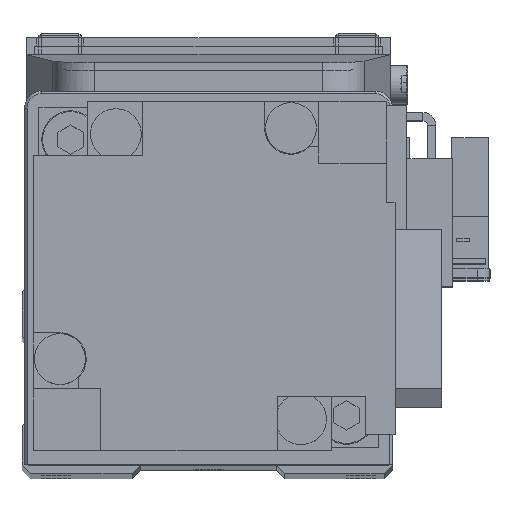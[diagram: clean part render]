
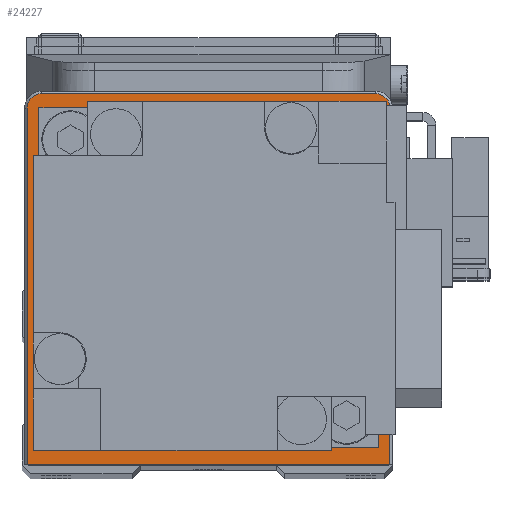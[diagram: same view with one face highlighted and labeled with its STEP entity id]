
A CAD part, top view. The second image highlights one B-rep face of the part: STEP entity #24227.
In plain terms, the highlighted planar face has unit normal (0, 0, 1).
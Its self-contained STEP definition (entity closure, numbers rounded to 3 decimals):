
#461 = EDGE_CURVE ( 'NONE', #6564, #33049, #31217, .T. ) ;
#1410 = CARTESIAN_POINT ( 'NONE',  ( -19.7, 20., 26.5 ) ) ;
#1513 = ORIENTED_EDGE ( 'NONE', *, *, #1767, .T. ) ;
#1539 = LINE ( 'NONE', #6013, #1858 ) ;
#1767 = EDGE_CURVE ( 'NONE', #3363, #33483, #31035, .T. ) ;
#1858 = VECTOR ( 'NONE', #25389, 1000. ) ;
#2168 = AXIS2_PLACEMENT_3D ( 'NONE', #28081, #32885, #4561 ) ;
#2358 = EDGE_CURVE ( 'NONE', #29791, #3363, #1539, .T. ) ;
#2530 = CARTESIAN_POINT ( 'NONE',  ( 19.7, 20., 26.5 ) ) ;
#3363 = VERTEX_POINT ( 'NONE', #7577 ) ;
#3848 = EDGE_LOOP ( 'NONE', ( #1513, #3855, #29890, #17131, #30868, #17779 ) ) ;
#3855 = ORIENTED_EDGE ( 'NONE', *, *, #9524, .T. ) ;
#4561 = DIRECTION ( 'NONE',  ( 1., 0., 0. ) ) ;
#4790 = CARTESIAN_POINT ( 'NONE',  ( 21.4, -22., 26.5 ) ) ;
#6010 = EDGE_CURVE ( 'NONE', #16772, #17665, #20175, .T. ) ;
#6013 = CARTESIAN_POINT ( 'NONE',  ( -21.4, -22., 26.5 ) ) ;
#6564 = VERTEX_POINT ( 'NONE', #26570 ) ;
#7072 = ORIENTED_EDGE ( 'NONE', *, *, #25900, .F. ) ;
#7339 = DIRECTION ( 'NONE',  ( 1., 0., 0. ) ) ;
#7577 = CARTESIAN_POINT ( 'NONE',  ( -21.4, -22., 26.5 ) ) ;
#8621 = EDGE_LOOP ( 'NONE', ( #7072, #15631 ) ) ;
#9524 = EDGE_CURVE ( 'NONE', #33483, #6564, #24298, .T. ) ;
#10206 = DIRECTION ( 'NONE',  ( 0., 0., 1. ) ) ;
#11089 = CARTESIAN_POINT ( 'NONE',  ( 21.4, 20., 26.5 ) ) ;
#11261 = DIRECTION ( 'NONE',  ( -1., 0., 0. ) ) ;
#11432 = LINE ( 'NONE', #24483, #18527 ) ;
#11477 = CIRCLE ( 'NONE', #2168, 10. ) ;
#11588 = VECTOR ( 'NONE', #28960, 1000. ) ;
#11592 = CARTESIAN_POINT ( 'NONE',  ( -19.7, 21.7, 26.5 ) ) ;
#11631 = FACE_BOUND ( 'NONE', #8621, .T. ) ;
#12263 = CARTESIAN_POINT ( 'NONE',  ( -21.4, 20., 26.5 ) ) ;
#12619 = CARTESIAN_POINT ( 'NONE',  ( 10., 0., 26.5 ) ) ;
#14272 = DIRECTION ( 'NONE',  ( 1., 0., 0. ) ) ;
#14769 = AXIS2_PLACEMENT_3D ( 'NONE', #2530, #30852, #17629 ) ;
#15631 = ORIENTED_EDGE ( 'NONE', *, *, #6010, .F. ) ;
#16772 = VERTEX_POINT ( 'NONE', #12619 ) ;
#17027 = DIRECTION ( 'NONE',  ( 0., 0., 1. ) ) ;
#17131 = ORIENTED_EDGE ( 'NONE', *, *, #24403, .T. ) ;
#17629 = DIRECTION ( 'NONE',  ( 1., 0., 0. ) ) ;
#17665 = VERTEX_POINT ( 'NONE', #28311 ) ;
#17736 = VECTOR ( 'NONE', #7339, 1000. ) ;
#17759 = CARTESIAN_POINT ( 'NONE',  ( 0., 0., 26.5 ) ) ;
#17779 = ORIENTED_EDGE ( 'NONE', *, *, #2358, .T. ) ;
#18527 = VECTOR ( 'NONE', #11261, 1000. ) ;
#19695 = EDGE_CURVE ( 'NONE', #24576, #29791, #27770, .T. ) ;
#19721 = DIRECTION ( 'NONE',  ( 1., 0., 0. ) ) ;
#19999 = DIRECTION ( 'NONE',  ( 1., 0., 0. ) ) ;
#20175 = CIRCLE ( 'NONE', #31683, 10. ) ;
#22110 = PLANE ( 'NONE',  #30579 ) ;
#22286 = FACE_OUTER_BOUND ( 'NONE', #3848, .T. ) ;
#24227 = ADVANCED_FACE ( 'NONE', ( #22286, #11631 ), #22110, .T. ) ;
#24298 = LINE ( 'NONE', #11089, #11588 ) ;
#24403 = EDGE_CURVE ( 'NONE', #33049, #24576, #11432, .T. ) ;
#24483 = CARTESIAN_POINT ( 'NONE',  ( -19.7, 21.7, 26.5 ) ) ;
#24576 = VERTEX_POINT ( 'NONE', #11592 ) ;
#25389 = DIRECTION ( 'NONE',  ( 0., -1., 0. ) ) ;
#25564 = AXIS2_PLACEMENT_3D ( 'NONE', #1410, #17027, #14272 ) ;
#25900 = EDGE_CURVE ( 'NONE', #17665, #16772, #11477, .T. ) ;
#26570 = CARTESIAN_POINT ( 'NONE',  ( 21.4, 20., 26.5 ) ) ;
#27770 = CIRCLE ( 'NONE', #25564, 1.7 ) ;
#28081 = CARTESIAN_POINT ( 'NONE',  ( 0., 0., 26.5 ) ) ;
#28311 = CARTESIAN_POINT ( 'NONE',  ( -10., 0., 26.5 ) ) ;
#28960 = DIRECTION ( 'NONE',  ( 0., 1., 0. ) ) ;
#29791 = VERTEX_POINT ( 'NONE', #12263 ) ;
#29890 = ORIENTED_EDGE ( 'NONE', *, *, #461, .T. ) ;
#30579 = AXIS2_PLACEMENT_3D ( 'NONE', #32753, #32576, #19721 ) ;
#30852 = DIRECTION ( 'NONE',  ( 0., 0., 1. ) ) ;
#30858 = CARTESIAN_POINT ( 'NONE',  ( -21.7, -22., 26.5 ) ) ;
#30868 = ORIENTED_EDGE ( 'NONE', *, *, #19695, .T. ) ;
#31035 = LINE ( 'NONE', #30858, #17736 ) ;
#31217 = CIRCLE ( 'NONE', #14769, 1.7 ) ;
#31253 = CARTESIAN_POINT ( 'NONE',  ( 19.7, 21.7, 26.5 ) ) ;
#31683 = AXIS2_PLACEMENT_3D ( 'NONE', #17759, #10206, #19999 ) ;
#32576 = DIRECTION ( 'NONE',  ( 0., 0., 1. ) ) ;
#32753 = CARTESIAN_POINT ( 'NONE',  ( 0., 0., 26.5 ) ) ;
#32885 = DIRECTION ( 'NONE',  ( 0., 0., 1. ) ) ;
#33049 = VERTEX_POINT ( 'NONE', #31253 ) ;
#33483 = VERTEX_POINT ( 'NONE', #4790 ) ;
